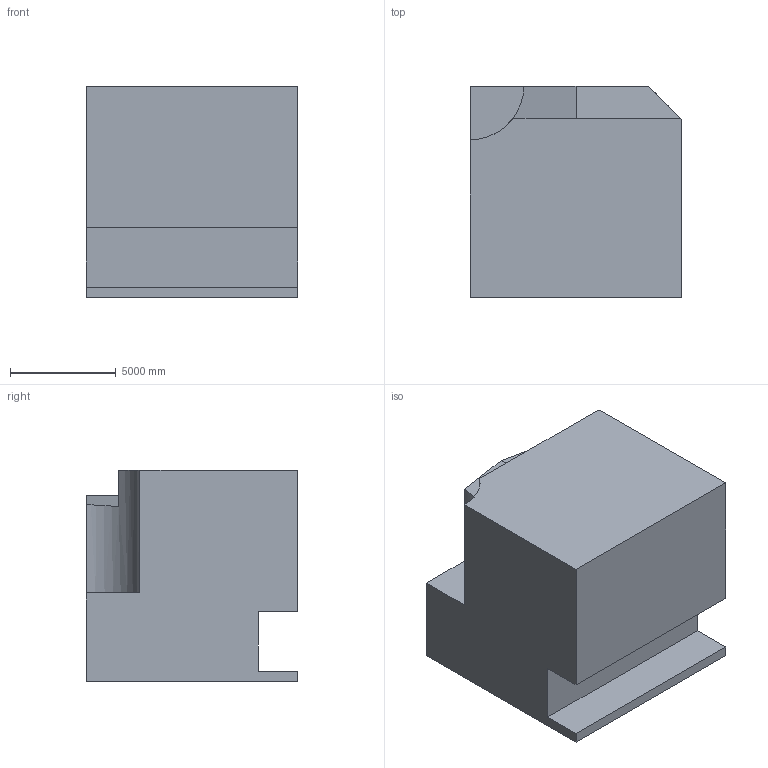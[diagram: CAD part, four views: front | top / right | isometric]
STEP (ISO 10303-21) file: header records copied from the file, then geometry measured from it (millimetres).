
FILE_DESCRIPTION (( 'STEP AP203' ), '1' );
FILE_NAME ('548.STEP', '2022-07-29T11:45:56', ( 'user' ), ( '' ), 'SwSTEP 2.0', 'SolidWorks 2021', '' );
FILE_SCHEMA (( 'CONFIG_CONTROL_DESIGN' ));
Length unit declared in the file: centimetre
Products named in the file (1): 548
Bounding box: 10000 x 10000 x 10000 mm (x, y, z)
Volume: 858897457932.1 mm3; surface area: 600725673.4 mm2
Topology: 1 solids, 1 shells, 20 faces, 54 edges, 36 vertices
Faces by surface type: plane 17, cylinder 3
Entity records: 768 total; most frequent: CARTESIAN_POINT 191, ORIENTED_EDGE 108, DIRECTION 96, EDGE_CURVE 54, VECTOR 46, LINE 46, VERTEX_POINT 36, AXIS2_PLACEMENT_3D 25
